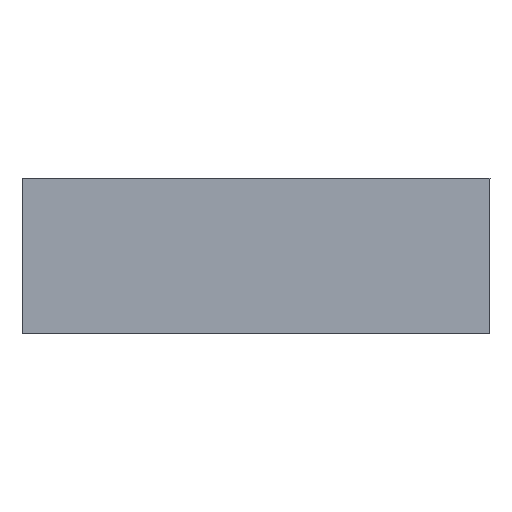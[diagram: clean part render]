
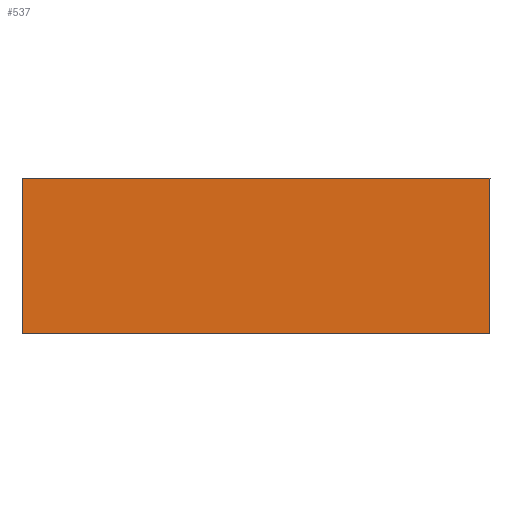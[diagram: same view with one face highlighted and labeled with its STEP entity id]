
A CAD part, top view. The second image highlights one B-rep face of the part: STEP entity #537.
In plain terms, the highlighted planar face has unit normal (0, 0, 1).
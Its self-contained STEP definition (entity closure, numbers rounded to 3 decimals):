
#266=ORIENTED_EDGE('',*,*,#378,.T.);
#267=ORIENTED_EDGE('',*,*,#379,.F.);
#268=ORIENTED_EDGE('',*,*,#374,.F.);
#269=ORIENTED_EDGE('',*,*,#380,.T.);
#310=VECTOR('',#424,1.);
#314=VECTOR('',#430,1.);
#315=VECTOR('',#431,1.);
#316=VECTOR('',#432,1.);
#334=LINE('',#469,#310);
#338=LINE('',#478,#314);
#339=LINE('',#479,#315);
#340=LINE('',#480,#316);
#358=VERTEX_POINT('',#467);
#359=VERTEX_POINT('',#468);
#362=VERTEX_POINT('',#476);
#363=VERTEX_POINT('',#477);
#374=EDGE_CURVE('',#358,#359,#334,.T.);
#378=EDGE_CURVE('',#362,#363,#338,.T.);
#379=EDGE_CURVE('',#359,#363,#339,.T.);
#380=EDGE_CURVE('',#358,#362,#340,.T.);
#399=EDGE_LOOP('',(#266,#267,#268,#269));
#411=FACE_BOUND('',#399,.T.);
#424=DIRECTION('',(-150.207,0.,0.));
#428=DIRECTION('',(0.,0.,1.));
#429=DIRECTION('',(0.,-1.,0.));
#430=DIRECTION('',(-150.207,0.,0.));
#431=DIRECTION('',(0.,50.,0.));
#432=DIRECTION('',(0.,50.,0.));
#467=CARTESIAN_POINT('',(150.,0.,20.));
#468=CARTESIAN_POINT('',(-0.207,0.,20.));
#469=CARTESIAN_POINT('',(150.,0.,20.));
#475=CARTESIAN_POINT('',(87.285,50.,20.));
#476=CARTESIAN_POINT('',(150.,50.,20.));
#477=CARTESIAN_POINT('',(-0.207,50.,20.));
#478=CARTESIAN_POINT('',(150.,50.,20.));
#479=CARTESIAN_POINT('',(-0.207,0.,20.));
#480=CARTESIAN_POINT('',(150.,0.,20.));
#517=AXIS2_PLACEMENT_3D('',#475,#428,#429);
#527=PLANE('',#517);
#537=ADVANCED_FACE('',(#411),#527,.T.);
